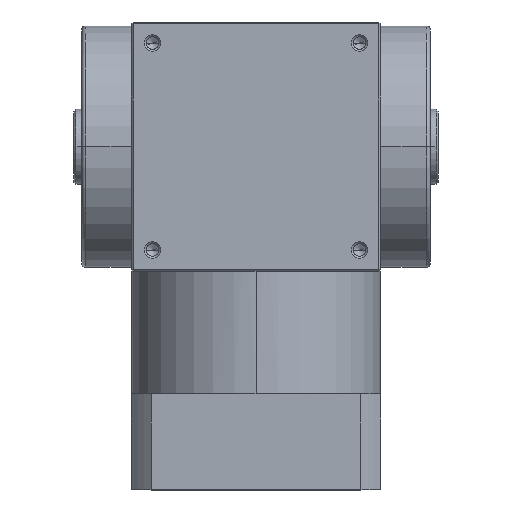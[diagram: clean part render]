
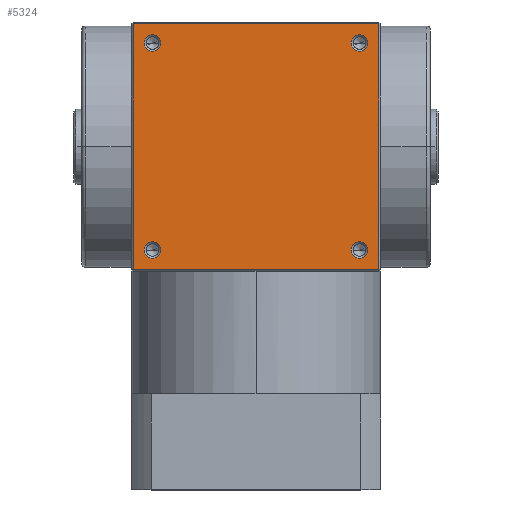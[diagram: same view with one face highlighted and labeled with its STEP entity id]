
A CAD part, top view. The second image highlights one B-rep face of the part: STEP entity #5324.
In plain terms, the highlighted planar face has unit normal (0, 0, 1).
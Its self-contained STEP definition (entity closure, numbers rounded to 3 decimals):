
#487 = VECTOR ( 'NONE', #7299, 1000. ) ;
#515 = CIRCLE ( 'NONE', #6991, 2.15 ) ;
#553 = DIRECTION ( 'NONE',  ( -1., 0., 0. ) ) ;
#623 = CARTESIAN_POINT ( 'NONE',  ( -27., 27., 32.5 ) ) ;
#861 = VERTEX_POINT ( 'NONE', #7813 ) ;
#1014 = EDGE_CURVE ( 'NONE', #6867, #1056, #2644, .T. ) ;
#1026 = ORIENTED_EDGE ( 'NONE', *, *, #7498, .T. ) ;
#1056 = VERTEX_POINT ( 'NONE', #4043 ) ;
#1089 = FACE_BOUND ( 'NONE', #3635, .T. ) ;
#1422 = DIRECTION ( 'NONE',  ( 0., 1., 0. ) ) ;
#1466 = VERTEX_POINT ( 'NONE', #5852 ) ;
#1492 = ORIENTED_EDGE ( 'NONE', *, *, #6862, .T. ) ;
#1592 = EDGE_LOOP ( 'NONE', ( #8629, #4823 ) ) ;
#1612 = CARTESIAN_POINT ( 'NONE',  ( 32., 32., 32.5 ) ) ;
#1623 = CIRCLE ( 'NONE', #1959, 2.15 ) ;
#1632 = EDGE_CURVE ( 'NONE', #1821, #6433, #4867, .T. ) ;
#1642 = VERTEX_POINT ( 'NONE', #6906 ) ;
#1711 = EDGE_CURVE ( 'NONE', #4826, #4033, #8126, .T. ) ;
#1746 = ORIENTED_EDGE ( 'NONE', *, *, #4490, .T. ) ;
#1821 = VERTEX_POINT ( 'NONE', #6424 ) ;
#1959 = AXIS2_PLACEMENT_3D ( 'NONE', #2924, #2221, #2287 ) ;
#2027 = DIRECTION ( 'NONE',  ( 0., 0., -1. ) ) ;
#2070 = DIRECTION ( 'NONE',  ( 0., 0., -1. ) ) ;
#2161 = CARTESIAN_POINT ( 'NONE',  ( 29.15, 27., 32.5 ) ) ;
#2192 = ORIENTED_EDGE ( 'NONE', *, *, #1632, .T. ) ;
#2221 = DIRECTION ( 'NONE',  ( 0., 0., -1. ) ) ;
#2248 = DIRECTION ( 'NONE',  ( 0., 0., -1. ) ) ;
#2287 = DIRECTION ( 'NONE',  ( -1., 0., 0. ) ) ;
#2317 = AXIS2_PLACEMENT_3D ( 'NONE', #2795, #4189, #8799 ) ;
#2464 = AXIS2_PLACEMENT_3D ( 'NONE', #4000, #8758, #553 ) ;
#2529 = VERTEX_POINT ( 'NONE', #2161 ) ;
#2541 = CARTESIAN_POINT ( 'NONE',  ( 0., -32., 32.5 ) ) ;
#2574 = EDGE_CURVE ( 'NONE', #4033, #6867, #6221, .T. ) ;
#2588 = ORIENTED_EDGE ( 'NONE', *, *, #1014, .T. ) ;
#2613 = FACE_BOUND ( 'NONE', #7153, .T. ) ;
#2644 = LINE ( 'NONE', #2541, #487 ) ;
#2711 = CARTESIAN_POINT ( 'NONE',  ( -27., -27., 32.5 ) ) ;
#2795 = CARTESIAN_POINT ( 'NONE',  ( -27., 27., 32.5 ) ) ;
#2924 = CARTESIAN_POINT ( 'NONE',  ( 27., -27., 32.5 ) ) ;
#2927 = DIRECTION ( 'NONE',  ( -1., 0., 0. ) ) ;
#3015 = AXIS2_PLACEMENT_3D ( 'NONE', #8784, #2070, #7468 ) ;
#3035 = PLANE ( 'NONE',  #5217 ) ;
#3386 = CARTESIAN_POINT ( 'NONE',  ( -32., -32., 32.5 ) ) ;
#3427 = CARTESIAN_POINT ( 'NONE',  ( 24.85, 27., 32.5 ) ) ;
#3433 = DIRECTION ( 'NONE',  ( 0., 0., -1. ) ) ;
#3635 = EDGE_LOOP ( 'NONE', ( #1492, #4162 ) ) ;
#3706 = VERTEX_POINT ( 'NONE', #3427 ) ;
#4000 = CARTESIAN_POINT ( 'NONE',  ( 27., 27., 32.5 ) ) ;
#4033 = VERTEX_POINT ( 'NONE', #8080 ) ;
#4038 = CARTESIAN_POINT ( 'NONE',  ( -27., -27., 32.5 ) ) ;
#4043 = CARTESIAN_POINT ( 'NONE',  ( 32., -32., 32.5 ) ) ;
#4086 = EDGE_CURVE ( 'NONE', #1642, #861, #6374, .T. ) ;
#4162 = ORIENTED_EDGE ( 'NONE', *, *, #8278, .T. ) ;
#4189 = DIRECTION ( 'NONE',  ( 0., 0., -1. ) ) ;
#4309 = CIRCLE ( 'NONE', #7940, 2.15 ) ;
#4316 = DIRECTION ( 'NONE',  ( -1., 0., 0. ) ) ;
#4339 = CARTESIAN_POINT ( 'NONE',  ( 0., 0., 32.5 ) ) ;
#4429 = VECTOR ( 'NONE', #8230, 1000. ) ;
#4490 = EDGE_CURVE ( 'NONE', #3706, #2529, #6464, .T. ) ;
#4543 = VECTOR ( 'NONE', #1422, 1000. ) ;
#4823 = ORIENTED_EDGE ( 'NONE', *, *, #7904, .T. ) ;
#4826 = VERTEX_POINT ( 'NONE', #1612 ) ;
#4848 = CARTESIAN_POINT ( 'NONE',  ( -32., 0., 32.5 ) ) ;
#4867 = CIRCLE ( 'NONE', #3015, 2.15 ) ;
#4946 = CIRCLE ( 'NONE', #2317, 2.15 ) ;
#5217 = AXIS2_PLACEMENT_3D ( 'NONE', #4339, #2248, #8320 ) ;
#5271 = EDGE_CURVE ( 'NONE', #1056, #4826, #8326, .T. ) ;
#5324 = ADVANCED_FACE ( 'NONE', ( #8734, #1089, #2613, #8116, #6985 ), #3035, .F. ) ;
#5426 = ORIENTED_EDGE ( 'NONE', *, *, #5271, .T. ) ;
#5448 = CARTESIAN_POINT ( 'NONE',  ( 24.85, -27., 32.5 ) ) ;
#5580 = VERTEX_POINT ( 'NONE', #7151 ) ;
#5660 = CARTESIAN_POINT ( 'NONE',  ( 27., 27., 32.5 ) ) ;
#5676 = ORIENTED_EDGE ( 'NONE', *, *, #2574, .T. ) ;
#5852 = CARTESIAN_POINT ( 'NONE',  ( -24.85, -27., 32.5 ) ) ;
#5970 = DIRECTION ( 'NONE',  ( 0., 0., -1. ) ) ;
#6046 = DIRECTION ( 'NONE',  ( -1., 0., 0. ) ) ;
#6221 = LINE ( 'NONE', #4848, #4429 ) ;
#6228 = CARTESIAN_POINT ( 'NONE',  ( 0., 32., 32.5 ) ) ;
#6345 = DIRECTION ( 'NONE',  ( 0., 0., -1. ) ) ;
#6374 = CIRCLE ( 'NONE', #8009, 2.15 ) ;
#6424 = CARTESIAN_POINT ( 'NONE',  ( 29.15, -27., 32.5 ) ) ;
#6433 = VERTEX_POINT ( 'NONE', #5448 ) ;
#6464 = CIRCLE ( 'NONE', #2464, 2.15 ) ;
#6578 = EDGE_LOOP ( 'NONE', ( #5676, #2588, #5426, #7657 ) ) ;
#6658 = EDGE_CURVE ( 'NONE', #2529, #3706, #7254, .T. ) ;
#6862 = EDGE_CURVE ( 'NONE', #1466, #5580, #515, .T. ) ;
#6867 = VERTEX_POINT ( 'NONE', #3386 ) ;
#6906 = CARTESIAN_POINT ( 'NONE',  ( -24.85, 27., 32.5 ) ) ;
#6960 = CARTESIAN_POINT ( 'NONE',  ( 32., 0., 32.5 ) ) ;
#6985 = FACE_OUTER_BOUND ( 'NONE', #6578, .T. ) ;
#6991 = AXIS2_PLACEMENT_3D ( 'NONE', #2711, #2027, #6046 ) ;
#7151 = CARTESIAN_POINT ( 'NONE',  ( -29.15, -27., 32.5 ) ) ;
#7153 = EDGE_LOOP ( 'NONE', ( #8709, #1746 ) ) ;
#7194 = VECTOR ( 'NONE', #2927, 1000. ) ;
#7254 = CIRCLE ( 'NONE', #7436, 2.15 ) ;
#7299 = DIRECTION ( 'NONE',  ( 1., 0., 0. ) ) ;
#7436 = AXIS2_PLACEMENT_3D ( 'NONE', #5660, #6345, #4316 ) ;
#7468 = DIRECTION ( 'NONE',  ( -1., 0., 0. ) ) ;
#7498 = EDGE_CURVE ( 'NONE', #6433, #1821, #1623, .T. ) ;
#7657 = ORIENTED_EDGE ( 'NONE', *, *, #1711, .T. ) ;
#7813 = CARTESIAN_POINT ( 'NONE',  ( -29.15, 27., 32.5 ) ) ;
#7904 = EDGE_CURVE ( 'NONE', #861, #1642, #4946, .T. ) ;
#7940 = AXIS2_PLACEMENT_3D ( 'NONE', #4038, #5970, #7981 ) ;
#7981 = DIRECTION ( 'NONE',  ( -1., 0., 0. ) ) ;
#8009 = AXIS2_PLACEMENT_3D ( 'NONE', #623, #3433, #8135 ) ;
#8080 = CARTESIAN_POINT ( 'NONE',  ( -32., 32., 32.5 ) ) ;
#8116 = FACE_BOUND ( 'NONE', #1592, .T. ) ;
#8126 = LINE ( 'NONE', #6228, #7194 ) ;
#8135 = DIRECTION ( 'NONE',  ( -1., 0., 0. ) ) ;
#8230 = DIRECTION ( 'NONE',  ( 0., -1., 0. ) ) ;
#8278 = EDGE_CURVE ( 'NONE', #5580, #1466, #4309, .T. ) ;
#8320 = DIRECTION ( 'NONE',  ( -1., 0., 0. ) ) ;
#8326 = LINE ( 'NONE', #6960, #4543 ) ;
#8629 = ORIENTED_EDGE ( 'NONE', *, *, #4086, .T. ) ;
#8678 = EDGE_LOOP ( 'NONE', ( #2192, #1026 ) ) ;
#8709 = ORIENTED_EDGE ( 'NONE', *, *, #6658, .T. ) ;
#8734 = FACE_BOUND ( 'NONE', #8678, .T. ) ;
#8758 = DIRECTION ( 'NONE',  ( 0., 0., -1. ) ) ;
#8784 = CARTESIAN_POINT ( 'NONE',  ( 27., -27., 32.5 ) ) ;
#8799 = DIRECTION ( 'NONE',  ( -1., 0., 0. ) ) ;
